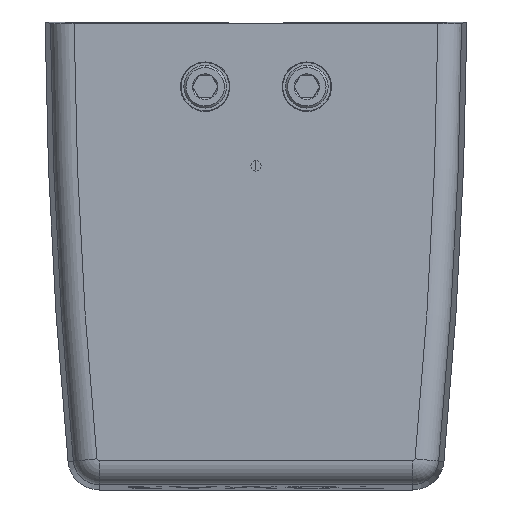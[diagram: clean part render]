
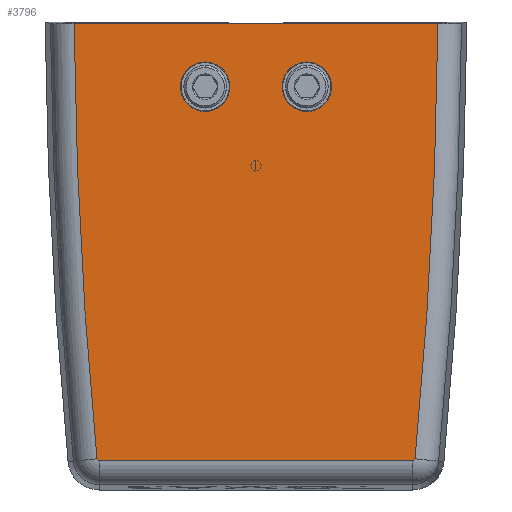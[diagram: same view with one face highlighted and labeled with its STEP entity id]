
A CAD part, left-side view. The second image highlights one B-rep face of the part: STEP entity #3796.
In plain terms, the highlighted planar face has unit normal (-1, 0, 0).
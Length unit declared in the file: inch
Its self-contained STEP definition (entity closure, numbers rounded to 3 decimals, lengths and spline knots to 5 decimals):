
#985 = DIRECTION ( 'NONE',  ( -1., 0., 0. ) ) ;
#2149 = AXIS2_PLACEMENT_3D ( 'NONE', #91468, #985, #28961 ) ;
#2524 = EDGE_CURVE ( 'NONE', #27855, #19825, #107593, .T. ) ;
#2710 = VERTEX_POINT ( 'NONE', #41812 ) ;
#2890 = CIRCLE ( 'NONE', #142587, 0.01515 ) ;
#3796 = ADVANCED_FACE ( 'NONE', ( #77196, #117250, #165273 ), #43490, .T. ) ;
#9074 = CARTESIAN_POINT ( 'NONE',  ( -43.58, -1.15006, -0.01012 ) ) ;
#10010 = DIRECTION ( 'NONE',  ( 0., 0., 1. ) ) ;
#11616 = CIRCLE ( 'NONE', #44140, 0.15629 ) ;
#19825 = VERTEX_POINT ( 'NONE', #122243 ) ;
#20397 = ORIENTED_EDGE ( 'NONE', *, *, #2524, .F. ) ;
#21180 = DIRECTION ( 'NONE',  ( -1., 0., 0. ) ) ;
#24436 = DIRECTION ( 'NONE',  ( -1., 0., 0. ) ) ;
#24909 = VERTEX_POINT ( 'NONE', #97398 ) ;
#27855 = VERTEX_POINT ( 'NONE', #9074 ) ;
#28666 = VECTOR ( 'NONE', #103324, 39.37008 ) ;
#28961 = DIRECTION ( 'NONE',  ( 0., 0., 1. ) ) ;
#32095 = VECTOR ( 'NONE', #108766, 39.37008 ) ;
#33158 = EDGE_CURVE ( 'NONE', #109526, #49212, #11616, .T. ) ;
#33263 = DIRECTION ( 'NONE',  ( -1., 0., 0. ) ) ;
#36764 = DIRECTION ( 'NONE',  ( 0., 0., 1. ) ) ;
#41812 = CARTESIAN_POINT ( 'NONE',  ( -43.58, -0.3215, -0.25256 ) ) ;
#43490 = PLANE ( 'NONE',  #53946 ) ;
#43975 = CARTESIAN_POINT ( 'NONE',  ( -43.58, 0.99054, -2.77545 ) ) ;
#44140 = AXIS2_PLACEMENT_3D ( 'NONE', #111556, #21180, #10010 ) ;
#45336 = EDGE_CURVE ( 'NONE', #2710, #145654, #138701, .T. ) ;
#45647 = EDGE_CURVE ( 'NONE', #109694, #27855, #108526, .T. ) ;
#46388 = CIRCLE ( 'NONE', #2149, 0.15629 ) ;
#49065 = EDGE_LOOP ( 'NONE', ( #61128, #52514 ) ) ;
#49212 = VERTEX_POINT ( 'NONE', #50693 ) ;
#50693 = CARTESIAN_POINT ( 'NONE',  ( -43.58, 0.3215, -0.56513 ) ) ;
#50990 = EDGE_CURVE ( 'NONE', #49212, #109526, #79578, .T. ) ;
#51512 = EDGE_LOOP ( 'NONE', ( #20397, #68763, #81061, #108708, #105289, #59529 ) ) ;
#52514 = ORIENTED_EDGE ( 'NONE', *, *, #33158, .F. ) ;
#53946 = AXIS2_PLACEMENT_3D ( 'NONE', #96966, #132776, #121024 ) ;
#54961 = DIRECTION ( 'NONE',  ( 0., 0., 1. ) ) ;
#55662 = VERTEX_POINT ( 'NONE', #157137 ) ;
#55785 = DIRECTION ( 'NONE',  ( 0., 0., 1. ) ) ;
#56168 = CARTESIAN_POINT ( 'NONE',  ( -43.58, -0.3215, -0.56513 ) ) ;
#56330 = CARTESIAN_POINT ( 'NONE',  ( -43.58, 30.60956, 0.27738 ) ) ;
#57868 = CIRCLE ( 'NONE', #158603, 31.76091 ) ;
#58368 = AXIS2_PLACEMENT_3D ( 'NONE', #113148, #24436, #36764 ) ;
#59529 = ORIENTED_EDGE ( 'NONE', *, *, #84289, .F. ) ;
#61128 = ORIENTED_EDGE ( 'NONE', *, *, #50990, .F. ) ;
#64691 = DIRECTION ( 'NONE',  ( -1., 0., 0. ) ) ;
#65958 = EDGE_CURVE ( 'NONE', #55662, #132076, #2890, .T. ) ;
#68763 = ORIENTED_EDGE ( 'NONE', *, *, #45647, .F. ) ;
#71937 = LINE ( 'NONE', #107675, #32095 ) ;
#77196 = FACE_BOUND ( 'NONE', #49065, .T. ) ;
#77643 = CARTESIAN_POINT ( 'NONE',  ( -43.58, 1.15006, -0.01012 ) ) ;
#79578 = CIRCLE ( 'NONE', #131726, 0.15629 ) ;
#81061 = ORIENTED_EDGE ( 'NONE', *, *, #116282, .T. ) ;
#84289 = EDGE_CURVE ( 'NONE', #19825, #24909, #94384, .T. ) ;
#84541 = EDGE_CURVE ( 'NONE', #145654, #2710, #46388, .T. ) ;
#84672 = AXIS2_PLACEMENT_3D ( 'NONE', #56330, #95285, #55785 ) ;
#91468 = CARTESIAN_POINT ( 'NONE',  ( -43.58, -0.3215, -0.40885 ) ) ;
#93385 = CARTESIAN_POINT ( 'NONE',  ( -43.58, -0.99054, -2.76031 ) ) ;
#94384 = CIRCLE ( 'NONE', #128347, 0.01515 ) ;
#95285 = DIRECTION ( 'NONE',  ( 1., 0., 0. ) ) ;
#96966 = CARTESIAN_POINT ( 'NONE',  ( -43.58, 30.60956, 0.27738 ) ) ;
#97398 = CARTESIAN_POINT ( 'NONE',  ( -43.58, -0.99054, -2.77545 ) ) ;
#102297 = ORIENTED_EDGE ( 'NONE', *, *, #45336, .F. ) ;
#103324 = DIRECTION ( 'NONE',  ( 0., -1., 0. ) ) ;
#105109 = DIRECTION ( 'NONE',  ( 1., 0., 0. ) ) ;
#105289 = ORIENTED_EDGE ( 'NONE', *, *, #147734, .T. ) ;
#107593 = CIRCLE ( 'NONE', #84672, 31.76091 ) ;
#107623 = DIRECTION ( 'NONE',  ( -1., 0., 0. ) ) ;
#107675 = CARTESIAN_POINT ( 'NONE',  ( -43.58, -0.99054, -2.77545 ) ) ;
#108526 = LINE ( 'NONE', #141360, #28666 ) ;
#108708 = ORIENTED_EDGE ( 'NONE', *, *, #65958, .T. ) ;
#108766 = DIRECTION ( 'NONE',  ( 0., -1., 0. ) ) ;
#109526 = VERTEX_POINT ( 'NONE', #124587 ) ;
#109694 = VERTEX_POINT ( 'NONE', #77643 ) ;
#111556 = CARTESIAN_POINT ( 'NONE',  ( -43.58, 0.3215, -0.40885 ) ) ;
#111864 = CARTESIAN_POINT ( 'NONE',  ( -43.58, -30.60956, 0.27738 ) ) ;
#113148 = CARTESIAN_POINT ( 'NONE',  ( -43.58, -0.3215, -0.40885 ) ) ;
#116282 = EDGE_CURVE ( 'NONE', #109694, #55662, #57868, .T. ) ;
#117250 = FACE_BOUND ( 'NONE', #164044, .T. ) ;
#121024 = DIRECTION ( 'NONE',  ( 0., 0., 1. ) ) ;
#122243 = CARTESIAN_POINT ( 'NONE',  ( -43.58, -1.00562, -2.76176 ) ) ;
#124587 = CARTESIAN_POINT ( 'NONE',  ( -43.58, 0.3215, -0.25256 ) ) ;
#128347 = AXIS2_PLACEMENT_3D ( 'NONE', #93385, #105109, #54961 ) ;
#131726 = AXIS2_PLACEMENT_3D ( 'NONE', #157484, #107623, #145143 ) ;
#132076 = VERTEX_POINT ( 'NONE', #43975 ) ;
#132685 = DIRECTION ( 'NONE',  ( 0., 0., 1. ) ) ;
#132776 = DIRECTION ( 'NONE',  ( -1., 0., 0. ) ) ;
#136452 = DIRECTION ( 'NONE',  ( 0., 0., 1. ) ) ;
#138701 = CIRCLE ( 'NONE', #58368, 0.15629 ) ;
#141360 = CARTESIAN_POINT ( 'NONE',  ( -43.58, 6.54436, -0.01012 ) ) ;
#142587 = AXIS2_PLACEMENT_3D ( 'NONE', #164687, #64691, #132685 ) ;
#145143 = DIRECTION ( 'NONE',  ( 0., 0., 1. ) ) ;
#145654 = VERTEX_POINT ( 'NONE', #56168 ) ;
#147734 = EDGE_CURVE ( 'NONE', #132076, #24909, #71937, .T. ) ;
#150203 = ORIENTED_EDGE ( 'NONE', *, *, #84541, .F. ) ;
#157137 = CARTESIAN_POINT ( 'NONE',  ( -43.58, 1.00562, -2.76176 ) ) ;
#157484 = CARTESIAN_POINT ( 'NONE',  ( -43.58, 0.3215, -0.40885 ) ) ;
#158603 = AXIS2_PLACEMENT_3D ( 'NONE', #111864, #33263, #136452 ) ;
#164044 = EDGE_LOOP ( 'NONE', ( #150203, #102297 ) ) ;
#164687 = CARTESIAN_POINT ( 'NONE',  ( -43.58, 0.99054, -2.76031 ) ) ;
#165273 = FACE_OUTER_BOUND ( 'NONE', #51512, .T. ) ;
